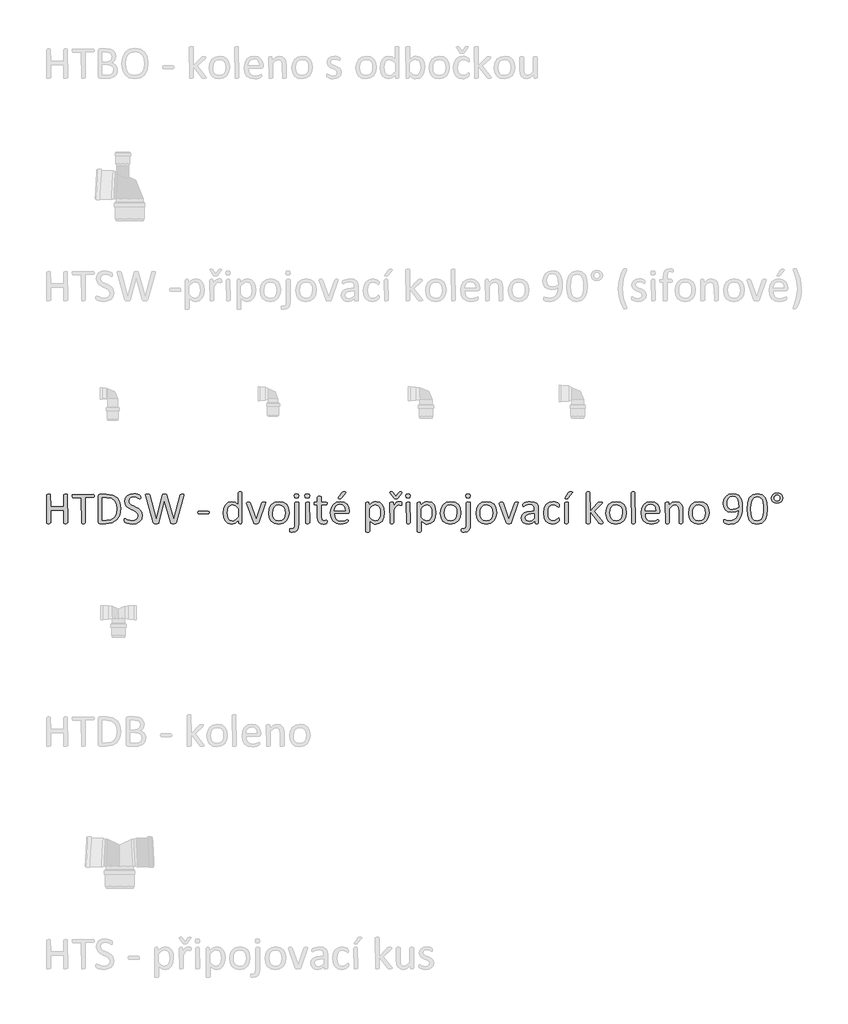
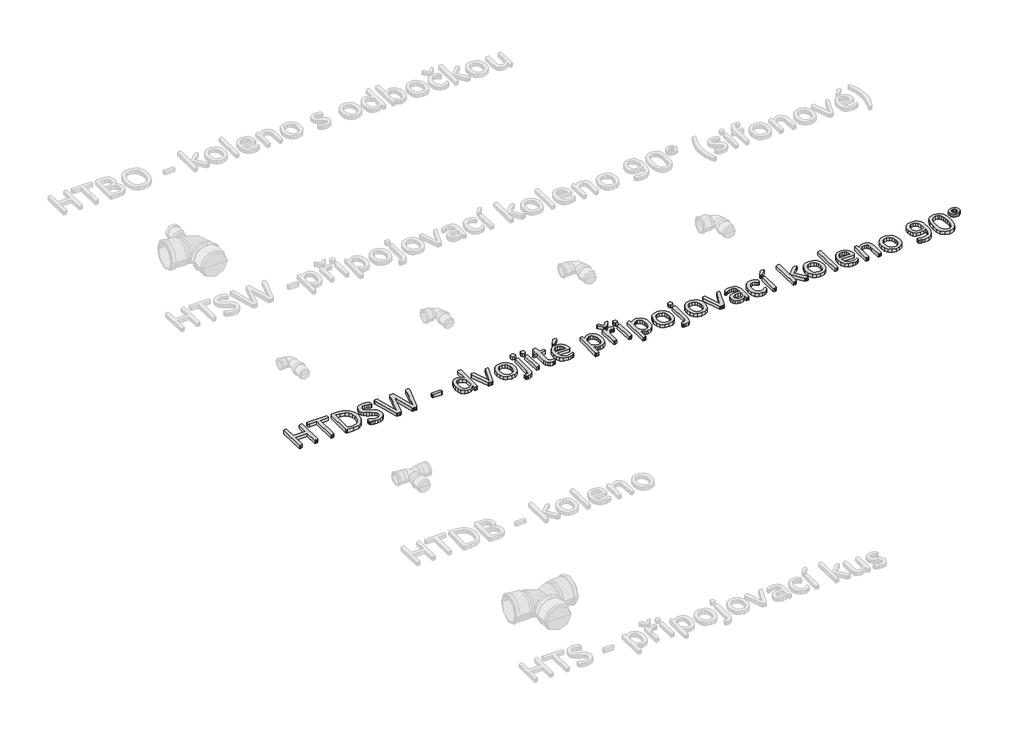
# One storey, part 6 of 26: 1 proxy.
"""IFC4 building model written with IfcOpenShell, lengths in millimetres."""

from ifc_helpers import new_model, si_unit, origin, origin_with_axes, place, context, project, spatial, polyline, outline, extrude, element, save

model = new_model("IFC4")

# Units and contexts
model_context = context("Model", 3, world=origin())
ifc_project = project(units=[si_unit("LENGTHUNIT", "METRE", prefix="MILLI")], contexts=[model_context])

# Site, building, storey
site = spatial("IfcSite", under=ifc_project)
building = spatial("IfcBuilding", under=site)
storey = spatial("IfcBuildingStorey", under=building, Name="Podlaží 1", Elevation=0.0)

# Proxy
placement = place(None, origin())
element("IfcBuildingElementProxy", 1, Name="120mm Arial", ObjectType="120mm Arial", at=placement, inside=storey, context=model_context, shape_type="SweptSolid", body=[
    extrude(outline(polyline([(-20465.0657483, -3041.9493003), (-20469.2817655, -3044.6815689), (-20473.1358927, -3044.9167974), (-20477.1166815, -3044.6815689), (-20479.5775327, -3044.1387341), (-20481.2784151, -2989.3305111), (-20534.5486061, -2989.3305111), (-20534.5486061, -3041.9854893), (-20538.7465288, -3044.6815689), (-20542.6549395, -3044.9167974), (-20546.5271613, -3044.6815689), (-20549.0603905, -3044.1206396), (-20550.7612729, -2927.4473409), (-20546.5271613, -2924.7150723), (-20542.6549395, -2924.4798438), (-20538.7465288, -2924.7150723), (-20536.2494886, -2925.2760016), (-20534.5486061, -2975.4339396), (-20481.2784151, -2975.4339396), (-20481.2784151, -2927.4473409), (-20477.1166815, -2924.7150723), (-20473.1358927, -2924.4798438), (-20469.2817655, -2924.7150723), (-20466.7666308, -2925.2760016), (-20465.0657483, -3041.9493003)])), origin_with_axes(), (0.0, 0.0, 1.0), 15.0),
    extrude(outline(polyline([(-20356.2092711, -2931.5366966), (-20356.390216, -2934.6670441), (-20356.9873343, -2936.8021944), (-20393.2667952, -2938.3764154), (-20393.2667952, -3041.9493003), (-20397.4647179, -3044.6815689), (-20401.3731287, -3044.9167974), (-20405.2453504, -3044.6815689), (-20407.7785796, -3044.1206396), (-20409.4794621, -2938.3764154), (-20443.3885442, -2938.3764154), (-20446.3017578, -2934.6670441), (-20446.5369862, -2931.5366966), (-20446.3017578, -2928.3339711), (-20445.686545, -2926.0902538), (-20359.3939021, -2924.4798438), (-20357.0054288, -2926.0902538), (-20356.390216, -2928.3339711), (-20356.2092711, -2931.5366966)])), origin_with_axes(), (0.0, 0.0, 1.0), 15.0),
    extrude(outline(polyline([(-20247.3527939, -2982.9250602), (-20251.3516771, -3010.2477464), (-20263.0407204, -3029.6088553), (-20281.8951833, -3041.0988591), (-20308.5121843, -3044.9167974), (-20334.0254212, -3044.9167974), (-20338.0966824, -3043.4692378), (-20339.9966043, -3038.4027794), (-20339.9966043, -2930.9938618), (-20338.0966824, -2925.9274034), (-20334.0254212, -2924.4798438), (-20306.7389239, -2924.4798438), (-20280.3028678, -2928.5330105), (-20262.1902791, -2940.1677703), (-20251.1164487, -2958.5517765), (-20247.3527939, -2982.9250602)]), holes=[polyline([(-20263.5654607, -2983.6488399), (-20266.0082174, -2965.6629127), (-20273.644094, -2951.2596953), (-20286.8168858, -2941.7781803), (-20307.3541367, -2938.3764154), (-20323.7839374, -2938.3764154), (-20323.7839374, -3031.0202258), (-20307.1731918, -3031.0202258), (-20287.5768545, -3028.1612957), (-20274.2593068, -3019.421655), (-20266.2434458, -3004.6565477), (-20263.5654607, -2983.6488399)])]), origin_with_axes(), (0.0, 0.0, 1.0), 15.0),
    extrude(outline(polyline([(-20159.341174, -3011.3696051), (-20162.453427, -3026.5689802), (-20171.1206897, -3037.8780391), (-20184.1668201, -3044.8806084), (-20200.3071089, -3047.2328926), (-20211.5256953, -3046.3281679), (-20220.7538874, -3044.1025451), (-20227.5574172, -3041.3702765), (-20231.3753555, -3038.9637088), (-20232.9495765, -3036.1771567), (-20233.4562223, -3031.4183047), (-20233.2752774, -3027.8898783), (-20232.714348, -3025.6280665), (-20226.7431649, -3025.5194996), (-20220.5729424, -3028.6679416), (-20211.5076008, -3031.8525725), (-20199.2576282, -3033.3363211), (-20189.6132628, -3031.9249505), (-20182.1040477, -3027.9441618), (-20177.2547233, -3021.6472778), (-20175.5538408, -3013.1428655), (-20177.942314, -3004.3127523), (-20184.2211035, -2997.8892069), (-20193.1055002, -2992.8227485), (-20203.3469839, -2988.11818), (-20213.5341842, -2982.8164932), (-20222.3823918, -2975.9767744), (-20228.7154648, -2966.7123934), (-20231.140127, -2954.0100584), (-20228.3716694, -2940.4210933), (-20220.6815094, -2930.4329324), (-20208.9562771, -2924.2808044), (-20194.2635478, -2922.1637486), (-20186.1391199, -2922.9418118), (-20178.4489599, -2925.0045842), (-20172.0073199, -2927.8816088), (-20168.2979486, -2930.4510269), (-20167.139901, -2931.95287), (-20166.3799322, -2935.2641624), (-20166.2894598, -2938.2316595), (-20166.4342157, -2941.3077235), (-20166.8503891, -2943.5514408), (-20172.0796979, -2943.9133306), (-20177.5080462, -2940.7467941), (-20185.1077338, -2937.5259742), (-20194.9511386, -2936.0603201), (-20203.7993463, -2937.3812182), (-20210.0238523, -2940.8915501), (-20213.6970346, -2946.1027644), (-20214.9274602, -2952.4901209), (-20212.575176, -2961.2116671), (-20206.2963865, -2967.689496), (-20197.3758008, -2972.8645214), (-20187.1886006, -2977.6052789), (-20176.9833058, -2982.8707767), (-20168.0627202, -2989.6381175), (-20161.7477417, -2998.8301206), (-20159.341174, -3011.3696051)])), origin_with_axes(), (0.0, 0.0, 1.0), 15.0),
    extrude(outline(polyline([(-20021.533506, -3040.8636307), (-20022.6734591, -3042.9444975), (-20024.7000425, -3044.1387341), (-20027.8846735, -3044.7358524), (-20032.5711475, -3044.9167974), (-20037.4566609, -3044.7358524), (-20040.7498589, -3044.1387341), (-20042.6859698, -3042.9444975), (-20043.7173559, -3040.8636307), (-20068.8325139, -2950.7530495), (-20092.2106004, -3040.8636307), (-20093.1334196, -3042.9444975), (-20094.979058, -3044.1387341), (-20098.0913111, -3044.7358524), (-20102.95873, -3044.9167974), (-20108.0613774, -3044.7358524), (-20111.3907643, -3044.1387341), (-20113.3992532, -3042.9444975), (-20114.3582614, -3040.8636307), (-20146.0960042, -2930.6681609), (-20146.6931225, -2927.3387739), (-20145.9512483, -2925.4931355), (-20143.3999246, -2924.6607888), (-20138.6772616, -2924.4798438), (-20134.117449, -2924.6245998), (-20131.5661254, -2925.1312456), (-20129.8471484, -2927.8092308), (-20102.886352, -3027.7632168), (-20077.1921702, -2927.9901757), (-20076.486485, -2926.2892933), (-20075.1474924, -2925.2217181), (-20072.5056962, -2924.6607888), (-20068.0001672, -2924.4798438), (-20063.8746225, -2924.6607888), (-20061.4318658, -2925.2217181), (-20060.0747787, -2926.2892933), (-20059.3871879, -2927.9901757), (-20031.8473677, -3027.7632168), (-20005.2122722, -2927.8816088), (-20004.6694374, -2926.2892933), (-20001.0143496, -2924.6607888), (-19996.7078599, -2924.4798438), (-19992.2928034, -2924.7150723), (-19989.9224246, -2925.583608), (-19989.2348338, -2927.4292464), (-19989.7233852, -2930.7405388), (-20021.533506, -3040.8636307)])), origin_with_axes(), (0.0, 0.0, 1.0), 15.0),
    extrude(outline(polyline([(-19886.0419333, -2999.7167508), (-19886.8923745, -3004.2765633), (-19889.3713202, -3005.5431779), (-19928.9620736, -3005.5431779), (-19931.5133973, -3004.2403744), (-19932.3638385, -2999.7167508), (-19931.5133973, -2995.2293162), (-19928.9620736, -2993.9627016), (-19889.3713202, -2993.9627016), (-19886.2771617, -2997.0025767), (-19886.0419333, -2999.7167508)])), origin_with_axes(), (0.0, 0.0, 1.0), 15.0),
    extrude(outline(polyline([(-19752.0341091, -3042.0216783), (-19755.4177795, -3044.7358524), (-19758.729072, -3044.9167974), (-19762.1670259, -3044.7358524), (-19764.4107432, -3044.2653956), (-19766.0754366, -3031.9611395), (-19779.5196458, -3043.1978204), (-19794.7733045, -3047.2328926), (-19810.1898135, -3043.6320883), (-19820.5217697, -3033.8972504), (-19826.3120079, -3019.457844), (-19828.1395518, -3001.9966571), (-19825.8596455, -2982.3641309), (-19819.1284937, -2967.4180786), (-19808.0908522, -2957.9184692), (-19792.8552881, -2954.5890822), (-19779.7005908, -2957.8279967), (-19767.921075, -2967.3276062), (-19767.921075, -2918.2191488), (-19766.2563816, -2916.0116206), (-19763.7593414, -2915.4506912), (-19759.9233086, -2915.2154628), (-19755.9063309, -2915.4506912), (-19753.4635742, -2916.0116206), (-19752.1426761, -2916.9344398), (-19752.0341091, -3042.0216783)]), holes=[polyline([(-19767.921075, -2983.8297849), (-19779.5377403, -2972.412159), (-19791.2267836, -2968.4856538), (-19800.8168655, -2971.2360169), (-19807.2223165, -2978.4919091), (-19810.8050263, -2988.6972038), (-19811.926885, -3000.2595856), (-19810.9859713, -3012.4914637), (-19807.7108678, -3023.0948373), (-19801.5225508, -3030.5316745), (-19791.8419964, -3033.3363211), (-19786.1603252, -3032.5220688), (-19780.551032, -3029.8259892), (-19774.5617544, -3024.9404757), (-19767.921075, -3017.5217331), (-19767.921075, -2983.8297849)])]), origin_with_axes(), (0.0, 0.0, 1.0), 15.0),
    extrude(outline(polyline([(-19655.4004627, -2958.497493), (-19683.8902439, -3041.6235994), (-19684.8673466, -3043.2701984), (-19686.676796, -3044.2653956), (-19689.7347655, -3044.7720414), (-19694.3850505, -3044.9167974), (-19698.9991466, -3044.7358524), (-19702.0209271, -3044.1930176), (-19703.8303765, -3043.1797259), (-19704.8436682, -3041.6235994), (-19733.2158351, -2963.3830064), (-19733.8129534, -2961.4830845), (-19730.2121491, -2956.99565), (-19726.6294392, -2956.9051775), (-19722.3229496, -2957.0499334), (-19719.8259094, -2957.5565793), (-19717.7269481, -2959.8364855), (-19694.1679166, -3027.7270279), (-19670.2469952, -2959.8364855), (-19668.2746954, -2957.5565793), (-19665.8500332, -2957.0499334), (-19661.8149609, -2956.9051775), (-19658.2865346, -2956.99565), (-19655.4004627, -2958.497493)])), origin_with_axes(), (0.0, 0.0, 1.0), 15.0),
    extrude(outline(polyline([(-19559.4725016, -3000.0062627), (-19562.1504868, -3018.9873871), (-19570.1663477, -3033.9334394), (-19583.5200845, -3043.7225607), (-19602.10313, -3047.2328926), (-19620.0166793, -3044.1387341), (-19632.7552032, -3035.1457705), (-19640.3548908, -3020.8149311), (-19642.851931, -3001.7071452), (-19640.2101348, -2982.7260207), (-19632.2485574, -2967.798063), (-19618.9491041, -2958.0632251), (-19600.3298696, -2954.5890822), (-19582.3982258, -2957.6832407), (-19569.6597019, -2966.6762044), (-19562.0238253, -2981.0070438), (-19559.4725016, -3000.0062627)]), holes=[polyline([(-19575.6851685, -3001.0919324), (-19576.9336886, -2988.5162589), (-19581.0411388, -2978.1300192), (-19588.7674878, -2971.0731665), (-19600.9450824, -2968.4856538), (-19612.5074642, -2970.8560325), (-19620.4690417, -2977.5509954), (-19625.1193267, -2987.7924791), (-19626.6392642, -3000.7300425), (-19625.3907441, -3013.3780939), (-19621.2471049, -3023.7281446), (-19613.4664724, -3030.7488084), (-19601.3069723, -3033.3363211), (-19589.7807795, -3030.9659423), (-19581.7649185, -3024.3252629), (-19577.1508225, -3014.1199682), (-19575.6851685, -3001.0919324)])]), origin_with_axes(), (0.0, 0.0, 1.0), 15.0),
    extrude(outline(polyline([(-19520.0988822, -3046.2919789), (-19521.5645363, -3061.672299), (-19526.1424433, -3071.5518929), (-19534.1402097, -3077.6135484), (-19545.93782, -3079.6582263), (-19551.2576013, -3079.2601474), (-19554.6231772, -3078.3735172), (-19556.2335872, -3077.2516585), (-19556.8668945, -3075.76791), (-19557.1021229, -3074.0308386), (-19557.1564064, -3071.8775938), (-19557.0116504, -3068.8196242), (-19556.5230991, -3066.7387574), (-19552.3432709, -3065.5264263), (-19548.3986712, -3065.7616547), (-19542.8798504, -3064.8388355), (-19539.1342901, -3061.817055), (-19536.9991398, -3056.3706122), (-19536.311549, -3046.2196009), (-19536.311549, -2959.7641076), (-19534.5925721, -2957.6470517), (-19532.1136264, -2957.0861224), (-19528.2052156, -2956.9051775), (-19524.2968049, -2957.0861224), (-19521.8178592, -2957.6470517), (-19520.4969611, -2958.569871), (-19520.0988822, -3046.2919789)])), origin_with_axes(), (0.0, 0.0, 1.0), 15.0),
    extrude(outline(polyline([(-19520.0988822, -2931.3195627), (-19522.1073711, -2938.7202108), (-19529.5080192, -2940.6925107), (-19536.7096279, -2938.7744943), (-19538.6276443, -2931.5366966), (-19536.6734389, -2924.1360485), (-19529.3270743, -2922.1637486), (-19522.0168986, -2924.081765), (-19520.0988822, -2931.3195627)])), origin_with_axes(), (0.0, 0.0, 1.0), 15.0),
    extrude(outline(polyline([(-19476.0930723, -3042.0940563), (-19480.218617, -3044.7358524), (-19484.2355947, -3044.9167974), (-19488.1801944, -3044.7358524), (-19490.6772346, -3044.1930176), (-19492.3057391, -2959.7279186), (-19488.1801944, -2957.0861224), (-19484.2355947, -2956.9051775), (-19480.218617, -2957.0861224), (-19477.7758602, -2957.6289573), (-19476.0930723, -3042.0940563)])), origin_with_axes(), (0.0, 0.0, 1.0), 15.0),
    extrude(outline(polyline([(-19476.0930723, -2931.3195627), (-19478.0834666, -2938.7202108), (-19485.4660203, -2940.6925107), (-19492.667629, -2938.7744943), (-19494.6218344, -2931.5366966), (-19492.63144, -2924.1360485), (-19485.2488864, -2922.1637486), (-19478.0472777, -2924.081765), (-19476.0930723, -2931.3195627)])), origin_with_axes(), (0.0, 0.0, 1.0), 15.0),
    extrude(outline(polyline([(-19404.2941192, -3036.59333), (-19404.6560091, -3041.1169536), (-19405.7597733, -3043.5778048), (-19407.9673015, -3045.0615533), (-19411.314783, -3046.2015065), (-19415.3136662, -3046.9433807), (-19419.5296834, -3047.2328926), (-19430.5492303, -3045.4777267), (-19438.0584454, -3040.1760399), (-19442.3287461, -3031.1830763), (-19443.6677386, -3018.3178909), (-19443.6677386, -2968.4856538), (-19454.6691911, -2968.4856538), (-19456.7862469, -2967.1285667), (-19457.5643102, -2962.7316046), (-19457.3471763, -2960.035525), (-19456.7862469, -2958.2079811), (-19443.6677386, -2956.9051775), (-19443.6677386, -2936.7479109), (-19442.0392342, -2934.5403826), (-19439.542194, -2933.9251698), (-19435.5975942, -2933.7442249), (-19431.5806165, -2933.9251698), (-19429.1378598, -2934.5403826), (-19427.8531507, -2935.5355798), (-19427.4550718, -2956.9051775), (-19407.1892383, -2956.9051775), (-19404.4750642, -2960.035525), (-19404.2941192, -2962.7316046), (-19405.090277, -2967.1285667), (-19407.1892383, -2968.4856538), (-19427.4550718, -2968.4856538), (-19427.4550718, -3015.6760947), (-19425.0485041, -3028.866981), (-19416.4174303, -3033.3363211), (-19412.816626, -3032.9201477), (-19410.0119794, -3032.051612), (-19407.8949236, -3031.1649818), (-19406.3207026, -3030.7307139), (-19404.4750642, -3033.662022), (-19404.2941192, -3036.59333)])), origin_with_axes(), (0.0, 0.0, 1.0), 15.0),
    extrude(outline(polyline([(-19313.9664041, -2996.6044978), (-19315.757759, -3001.7071452), (-19319.8652092, -3003.2270827), (-19374.1848808, -3003.2270827), (-19372.8277938, -3016.6170084), (-19368.3222647, -3026.8223031), (-19360.1073643, -3033.3725101), (-19347.7307303, -3035.6524163), (-19337.4530576, -3034.5848412), (-19329.6362361, -3032.1782734), (-19324.2259823, -3029.7717057), (-19321.0232568, -3028.7041305), (-19318.7252561, -3031.5992496), (-19318.5985946, -3034.2410458), (-19318.6890671, -3036.1771567), (-19323.1403126, -3041.5693159), (-19329.4914801, -3044.0663561), (-19338.5387272, -3046.2557899), (-19349.5039907, -3047.2328926), (-19367.1823116, -3044.3377735), (-19379.93893, -3035.7247943), (-19387.7557515, -3021.3758604), (-19390.3975477, -3001.3452553), (-19387.62909, -2981.8032015), (-19379.6494181, -2967.1104722), (-19367.0556501, -2957.8279967), (-19350.5172824, -2954.5890822), (-19333.8703477, -2957.7194297), (-19322.5612888, -2966.151464), (-19316.0472709, -2978.5823816), (-19313.9664041, -2993.8179457), (-19313.9664041, -2996.6044978)]), holes=[polyline([(-19330.1790709, -2991.6466064), (-19331.3506894, -2981.0206147), (-19335.3721907, -2972.9549939), (-19342.1440552, -2967.8659174), (-19351.5667631, -2966.1695585), (-19361.2111285, -2968.2685199), (-19368.1413198, -2973.8597186), (-19372.4659039, -2981.9841465), (-19374.1848808, -2991.6466064), (-19330.1790709, -2991.6466064)])]), origin_with_axes(), (0.0, 0.0, 1.0), 15.0),
    extrude(outline(polyline([(-19344.1118314, -2918.5086608), (-19342.7728389, -2916.9163453), (-19340.909106, -2915.9392426), (-19338.1768373, -2915.3964077), (-19334.2684266, -2915.2154628), (-19329.925748, -2915.5230692), (-19327.6096527, -2916.4096994), (-19327.8629756, -2919.3410075), (-19345.1613121, -2940.1496758), (-19346.5545882, -2941.5791409), (-19347.9840532, -2942.4295821), (-19350.0830145, -2942.8819445), (-19353.3038345, -2943.0086059), (-19356.6332214, -2942.7371885), (-19358.3702929, -2942.0134087), (-19357.972214, -2939.1725732), (-19344.1118314, -2918.5086608)])), origin_with_axes(), (0.0, 0.0, 1.0), 15.0),
    extrude(outline(polyline([(-19170.368498, -2999.6443728), (-19172.6845932, -3019.494033), (-19179.488123, -3034.4400852), (-19190.616237, -3043.9035057), (-19205.7975176, -3047.2328926), (-19212.510575, -3046.4910184), (-19218.5541361, -3044.1387341), (-19224.4167522, -3040.1036619), (-19230.5869747, -3034.3858017), (-19230.5869747, -3076.6545402), (-19232.2697627, -3078.916352), (-19234.7125194, -3079.4772813), (-19238.7294971, -3079.6582263), (-19242.6740969, -3079.4772813), (-19245.1711371, -3078.916352), (-19246.4558461, -3077.9754383), (-19246.4558461, -2959.8002966), (-19243.0721757, -2957.0499334), (-19239.7065998, -2956.9051775), (-19236.3229294, -2957.0318389), (-19234.1154011, -2957.5022958), (-19232.5411801, -2970.1503473), (-19225.3576659, -2963.3106284), (-19218.3912856, -2958.4793985), (-19211.1896769, -2955.5661849), (-19203.4090444, -2954.5890822), (-19188.2096693, -2958.1536976), (-19177.9681855, -2967.8885355), (-19172.1960419, -2982.2555639), (-19170.368498, -2999.6443728)]), holes=[polyline([(-19186.5811648, -3001.4176333), (-19187.5220785, -2989.1495662), (-19190.7609929, -2978.6185705), (-19196.9312155, -2971.2541114), (-19206.5574864, -2968.4856538), (-19212.2391576, -2969.336095), (-19217.9027343, -2972.0502691), (-19223.9282008, -2976.9357826), (-19230.5869747, -2984.3726197), (-19230.5869747, -3017.919812), (-19218.9884039, -3029.3736268), (-19207.4622111, -3033.3363211), (-19197.8721292, -3030.5678634), (-19191.3943002, -3023.2034043), (-19187.7573069, -3012.9076371), (-19186.5811648, -3001.4176333)])]), origin_with_axes(), (0.0, 0.0, 1.0), 15.0),
    extrude(outline(polyline([(-19098.5695449, -2963.8534633), (-19098.6600174, -2967.1466612), (-19099.0219073, -2969.2818115), (-19102.5684281, -2970.4941426), (-19104.9026179, -2969.6617959), (-19107.8158314, -2968.8656382), (-19111.3080688, -2968.4856538), (-19115.7231254, -2969.480851), (-19120.2648435, -2972.7378599), (-19125.2408294, -2978.745232), (-19130.9948785, -2987.9191406), (-19130.9948785, -3042.0940563), (-19135.1204232, -3044.7358524), (-19139.1374009, -3044.9167974), (-19143.0820007, -3044.7358524), (-19145.5790409, -3044.1930176), (-19147.2075454, -2959.7279186), (-19143.4800796, -2957.0499334), (-19139.8249917, -2956.9051775), (-19136.2422819, -2957.0499334), (-19134.0347536, -2957.5927683), (-19132.551005, -2971.7426627), (-19126.29031, -2963.1658725), (-19120.7353003, -2957.9365637), (-19115.560275, -2955.312862), (-19110.3671551, -2954.5890822), (-19107.725359, -2954.7157437), (-19104.613106, -2955.204295), (-19101.6817979, -2956.0185473), (-19099.8361595, -2956.9051775), (-19098.6057339, -2960.5964543), (-19098.5695449, -2963.8534633)])), origin_with_axes(), (0.0, 0.0, 1.0), 15.0),
    extrude(outline(polyline([(-19111.3080688, -2917.8934479), (-19110.1500212, -2916.6087389), (-19106.8568233, -2915.3421243), (-19103.9617042, -2915.2154628), (-19100.1799549, -2915.5230692), (-19098.3705055, -2916.4096994), (-19099.7275925, -2920.2095432), (-19114.6736448, -2940.6925107), (-19115.8497869, -2941.8505583), (-19117.4421024, -2942.5200546), (-19119.7581976, -2942.8819445), (-19123.1056791, -2943.0086059), (-19126.2541211, -2942.8819445), (-19128.4797438, -2942.4838656), (-19130.0177759, -2941.7600858), (-19146.0494977, -2920.2095432), (-19147.4427738, -2917.9839204), (-19145.5428519, -2915.5230692), (-19141.7791971, -2915.2154628), (-19138.6669441, -2915.3421243), (-19136.7851167, -2915.7944866), (-19134.4690214, -2917.8934479), (-19122.8885451, -2934.0699258), (-19111.3080688, -2917.8934479)])), origin_with_axes(), (0.0, 0.0, 1.0), 15.0),
    extrude(outline(polyline([(-19063.828116, -3042.0940563), (-19067.9536607, -3044.7358524), (-19071.9706384, -3044.9167974), (-19075.9152381, -3044.7358524), (-19078.4122783, -3044.1930176), (-19080.0407828, -2959.7279186), (-19075.9152381, -2957.0861224), (-19071.9706384, -2956.9051775), (-19067.9536607, -2957.0861224), (-19065.510904, -2957.6289573), (-19063.828116, -3042.0940563)])), origin_with_axes(), (0.0, 0.0, 1.0), 15.0),
    extrude(outline(polyline([(-19063.828116, -2931.3195627), (-19065.8185104, -2938.7202108), (-19073.201064, -2940.6925107), (-19080.4026727, -2938.7744943), (-19082.3568781, -2931.5366966), (-19080.3664837, -2924.1360485), (-19072.9839301, -2922.1637486), (-19065.7823214, -2924.081765), (-19063.828116, -2931.3195627)])), origin_with_axes(), (0.0, 0.0, 1.0), 15.0),
    extrude(outline(polyline([(-18959.6038293, -2999.6443728), (-18961.9199246, -3019.494033), (-18968.7234544, -3034.4400852), (-18979.8515683, -3043.9035057), (-18995.032849, -3047.2328926), (-19001.7459063, -3046.4910184), (-19007.7894674, -3044.1387341), (-19013.6520835, -3040.1036619), (-19019.8223061, -3034.3858017), (-19019.8223061, -3076.6545402), (-19021.505094, -3078.916352), (-19023.9478507, -3079.4772813), (-19027.9648285, -3079.6582263), (-19031.9094282, -3079.4772813), (-19034.4064684, -3078.916352), (-19035.6911775, -3077.9754383), (-19035.6911775, -2959.8002966), (-19032.3075071, -2957.0499334), (-19028.9419311, -2956.9051775), (-19025.5582607, -2957.0318389), (-19023.3507324, -2957.5022958), (-19021.7765114, -2970.1503473), (-19014.5929972, -2963.3106284), (-19007.626617, -2958.4793985), (-19000.4250083, -2955.5661849), (-18992.6443757, -2954.5890822), (-18977.4450006, -2958.1536976), (-18967.2035169, -2967.8885355), (-18961.4313732, -2982.2555639), (-18959.6038293, -2999.6443728)]), holes=[polyline([(-18975.8164961, -3001.4176333), (-18976.7574098, -2989.1495662), (-18979.9963243, -2978.6185705), (-18986.1665468, -2971.2541114), (-18995.7928177, -2968.4856538), (-19001.4744889, -2969.336095), (-19007.1380656, -2972.0502691), (-19013.1635322, -2976.9357826), (-19019.8223061, -2984.3726197), (-19019.8223061, -3017.919812), (-19008.2237353, -3029.3736268), (-18996.6975424, -3033.3363211), (-18987.1074605, -3030.5678634), (-18980.6296316, -3023.2034043), (-18976.9926382, -3012.9076371), (-18975.8164961, -3001.4176333)])]), origin_with_axes(), (0.0, 0.0, 1.0), 15.0),
    extrude(outline(polyline([(-18857.6956379, -3000.0062627), (-18860.373623, -3018.9873871), (-18868.3894839, -3033.9334394), (-18881.7432207, -3043.7225607), (-18900.3262662, -3047.2328926), (-18918.2398155, -3044.1387341), (-18930.9783394, -3035.1457705), (-18938.578027, -3020.8149311), (-18941.0750672, -3001.7071452), (-18938.4332711, -2982.7260207), (-18930.4716936, -2967.798063), (-18917.1722404, -2958.0632251), (-18898.5530058, -2954.5890822), (-18880.621362, -2957.6832407), (-18867.8828381, -2966.6762044), (-18860.2469615, -2981.0070438), (-18857.6956379, -3000.0062627)]), holes=[polyline([(-18873.9083047, -3001.0919324), (-18875.1568248, -2988.5162589), (-18879.264275, -2978.1300192), (-18886.990624, -2971.0731665), (-18899.1682186, -2968.4856538), (-18910.7306004, -2970.8560325), (-18918.6921779, -2977.5509954), (-18923.3424629, -2987.7924791), (-18924.8624004, -3000.7300425), (-18923.6138803, -3013.3780939), (-18919.4702411, -3023.7281446), (-18911.6896086, -3030.7488084), (-18899.5301085, -3033.3363211), (-18888.0039157, -3030.9659423), (-18879.9880547, -3024.3252629), (-18875.3739587, -3014.1199682), (-18873.9083047, -3001.0919324)])]), origin_with_axes(), (0.0, 0.0, 1.0), 15.0),
    extrude(outline(polyline([(-18818.3220184, -2931.3195627), (-18820.3305073, -2938.7202108), (-18827.7311554, -2940.6925107), (-18834.9327641, -2938.7744943), (-18836.8507805, -2931.5366966), (-18834.8965751, -2924.1360485), (-18827.5502105, -2922.1637486), (-18820.2400348, -2924.081765), (-18818.3220184, -2931.3195627)])), origin_with_axes(), (0.0, 0.0, 1.0), 15.0),
    extrude(outline(polyline([(-18818.3220184, -3046.2919789), (-18819.7876725, -3061.672299), (-18824.3655795, -3071.5518929), (-18832.363346, -3077.6135484), (-18844.1609562, -3079.6582263), (-18849.4807375, -3079.2601474), (-18852.8463134, -3078.3735172), (-18854.4567234, -3077.2516585), (-18855.0900307, -3075.76791), (-18855.3252591, -3074.0308386), (-18855.3795426, -3071.8775938), (-18855.2347866, -3068.8196242), (-18854.7462353, -3066.7387574), (-18850.5664071, -3065.5264263), (-18846.6218074, -3065.7616547), (-18841.1029867, -3064.8388355), (-18837.3574264, -3061.817055), (-18835.222276, -3056.3706122), (-18834.5346853, -3046.2196009), (-18834.5346853, -2959.7641076), (-18832.8157083, -2957.6470517), (-18830.3367626, -2957.0861224), (-18826.4283518, -2956.9051775), (-18822.5199411, -2957.0861224), (-18820.0409954, -2957.6470517), (-18818.7200973, -2958.569871), (-18818.3220184, -3046.2919789)])), origin_with_axes(), (0.0, 0.0, 1.0), 15.0),
    extrude(outline(polyline([(-18711.7816365, -3000.0062627), (-18714.4596216, -3018.9873871), (-18722.4754826, -3033.9334394), (-18735.8292193, -3043.7225607), (-18754.4122649, -3047.2328926), (-18772.3258141, -3044.1387341), (-18785.0643381, -3035.1457705), (-18792.6640256, -3020.8149311), (-18795.1610658, -3001.7071452), (-18792.5192697, -2982.7260207), (-18784.5576922, -2967.798063), (-18771.258239, -2958.0632251), (-18752.6390044, -2954.5890822), (-18734.7073607, -2957.6832407), (-18721.9688367, -2966.6762044), (-18714.3329602, -2981.0070438), (-18711.7816365, -3000.0062627)]), holes=[polyline([(-18727.9943033, -3001.0919324), (-18729.2428234, -2988.5162589), (-18733.3502736, -2978.1300192), (-18741.0766226, -2971.0731665), (-18753.2542172, -2968.4856538), (-18764.816599, -2970.8560325), (-18772.7781765, -2977.5509954), (-18777.4284615, -2987.7924791), (-18778.948399, -3000.7300425), (-18777.6998789, -3013.3780939), (-18773.5562397, -3023.7281446), (-18765.7756072, -3030.7488084), (-18753.6161071, -3033.3363211), (-18742.0899143, -3030.9659423), (-18734.0740534, -3024.3252629), (-18729.4599573, -3014.1199682), (-18727.9943033, -3001.0919324)])]), origin_with_axes(), (0.0, 0.0, 1.0), 15.0),
    extrude(outline(polyline([(-18622.4219768, -2958.497493), (-18650.9117579, -3041.6235994), (-18651.8888606, -3043.2701984), (-18653.69831, -3044.2653956), (-18656.7562796, -3044.7720414), (-18661.4065646, -3044.9167974), (-18666.0206606, -3044.7358524), (-18669.0424411, -3044.1930176), (-18670.8518906, -3043.1797259), (-18671.8651822, -3041.6235994), (-18700.2373492, -2963.3830064), (-18700.8344675, -2961.4830845), (-18697.2336631, -2956.99565), (-18693.6509533, -2956.9051775), (-18689.3444636, -2957.0499334), (-18686.8474234, -2957.5565793), (-18684.7484621, -2959.8364855), (-18661.1894306, -3027.7270279), (-18637.2685093, -2959.8364855), (-18635.2962094, -2957.5565793), (-18632.8715472, -2957.0499334), (-18628.836475, -2956.9051775), (-18625.3080486, -2956.99565), (-18622.4219768, -2958.497493)])), origin_with_axes(), (0.0, 0.0, 1.0), 15.0),
    extrude(outline(polyline([(-18540.3905872, -3042.1302453), (-18541.186745, -3043.8130332), (-18543.3580843, -3044.64538), (-18547.411251, -3044.9167974), (-18551.5187012, -3044.64538), (-18553.744324, -3043.8130332), (-18554.4319148, -3042.1302453), (-18554.4319148, -3033.8067779), (-18566.6276039, -3043.4330488), (-18580.8860653, -3047.2328926), (-18592.846526, -3045.5139157), (-18601.9480566, -3040.5379298), (-18607.7925782, -3032.5401633), (-18609.873445, -3021.7558448), (-18606.9964205, -3009.4877777), (-18598.7453311, -3000.8386094), (-18585.5906338, -2995.6816786), (-18568.0751634, -2993.9627016), (-18556.6032541, -2993.9627016), (-18556.6032541, -2987.0506049), (-18557.6165457, -2978.0033577), (-18560.8735547, -2971.4531508), (-18566.6818873, -2967.5085511), (-18575.457717, -2966.1695585), (-18585.5001613, -2967.6171181), (-18593.2807938, -2970.801749), (-18598.8719926, -2973.98638), (-18602.2013795, -2975.4339396), (-18605.0603096, -2971.9055132), (-18605.2412545, -2969.2456225), (-18604.9155536, -2965.4457788), (-18603.3232381, -2962.7858881), (-18598.9805595, -2960.071714), (-18591.8875178, -2957.3937288), (-18583.1116881, -2955.38524), (-18573.5035117, -2954.5890822), (-18558.1231916, -2956.6337601), (-18547.8636133, -2962.6049432), (-18542.1638477, -2972.3578755), (-18540.3905872, -2985.9649352), (-18540.3905872, -3042.1302453)]), holes=[polyline([(-18556.6032541, -3005.5431779), (-18569.4865339, -3005.5431779), (-18580.2346635, -3006.6107531), (-18587.8162566, -3009.7591951), (-18592.2494077, -3014.7532755), (-18593.6607782, -3021.4663329), (-18589.6076115, -3031.8163836), (-18578.2442691, -3035.6524163), (-18567.2428167, -3032.5944468), (-18556.6032541, -3023.2395933), (-18556.6032541, -3005.5431779)])]), origin_with_axes(), (0.0, 0.0, 1.0), 15.0),
    extrude(outline(polyline([(-18454.6950626, -3028.2698627), (-18454.7855351, -3030.8030919), (-18455.111236, -3032.6125413), (-18457.1016303, -3036.2495346), (-18460.9919466, -3039.777961), (-18467.1621691, -3043.5235213), (-18474.5990063, -3046.2015065), (-18482.9224736, -3047.2328926), (-18498.6284946, -3044.2292066), (-18510.0823094, -3035.4533769), (-18517.1210677, -3021.3034824), (-18519.5457299, -3001.9604681), (-18516.5782328, -2980.5184924), (-18508.4538049, -2965.8438576), (-18496.3123993, -2957.3575398), (-18481.1854022, -2954.5890822), (-18473.5495256, -2955.4033345), (-18466.7459958, -2957.5384848), (-18461.2090805, -2960.5783598), (-18457.6987487, -2963.5277624), (-18456.1969056, -2965.4638733), (-18455.5093149, -2967.0019053), (-18455.147425, -2968.9018272), (-18455.0569525, -2971.5617178), (-18455.8712047, -2976.3748533), (-18457.8435046, -2977.7500348), (-18460.9738521, -2976.3024753), (-18465.4431922, -2973.1178443), (-18472.0114936, -2969.9332133), (-18481.0768352, -2968.4856538), (-18490.5990628, -2970.5846151), (-18497.5971084, -2976.8814991), (-18501.8990744, -2987.1772663), (-18503.3330631, -3001.2728773), (-18501.8493146, -3015.2780158), (-18497.470447, -3025.3385546), (-18490.3593107, -3031.3640212), (-18480.7149453, -3033.3363211), (-18471.6857927, -3031.5087771), (-18464.9546408, -3027.4917994), (-18460.1595999, -3023.5291052), (-18457.1197248, -3021.7558448), (-18454.8217241, -3025.3204601), (-18454.6950626, -3028.2698627)])), origin_with_axes(), (0.0, 0.0, 1.0), 15.0),
    extrude(outline(polyline([(-18417.6375385, -3042.0940563), (-18421.7630831, -3044.7358524), (-18425.7800609, -3044.9167974), (-18429.7246606, -3044.7358524), (-18432.2217008, -3044.1930176), (-18433.8502053, -2959.7279186), (-18429.7246606, -2957.0499334), (-18425.7800609, -2956.9051775), (-18421.7630831, -2957.0499334), (-18419.3203264, -2957.5927683), (-18417.6375385, -3042.0940563)])), origin_with_axes(), (0.0, 0.0, 1.0), 15.0),
    extrude(outline(polyline([(-18417.6737274, -2918.5086608), (-18416.3347349, -2916.9163453), (-18414.471002, -2915.9392426), (-18411.7387333, -2915.3964077), (-18407.8303226, -2915.2154628), (-18403.487644, -2915.5230692), (-18401.1715487, -2916.4096994), (-18401.4248716, -2919.3410075), (-18418.7232081, -2940.1496758), (-18420.1164842, -2941.5791409), (-18421.5459492, -2942.4295821), (-18423.6449105, -2942.8819445), (-18426.8657305, -2943.0086059), (-18430.1951174, -2942.7371885), (-18431.9321889, -2942.0134087), (-18431.53411, -2939.1725732), (-18417.6737274, -2918.5086608)])), origin_with_axes(), (0.0, 0.0, 1.0), 15.0),
    extrude(outline(polyline([(-18276.3557276, -3041.9854893), (-18280.4269888, -3044.7358524), (-18284.425872, -3044.9167974), (-18288.5514167, -3044.7720414), (-18291.3017798, -3044.3196791), (-18293.1112292, -3043.4149543), (-18294.3778438, -3041.9854893), (-18329.6259186, -2996.4235529), (-18329.6259186, -3042.0940563), (-18333.7514633, -3044.7358524), (-18337.768441, -3044.9167974), (-18341.7130407, -3044.7358524), (-18344.2100809, -3044.1749231), (-18345.8385854, -2918.1829599), (-18341.7130407, -2915.3964077), (-18337.768441, -2915.2154628), (-18333.7514633, -2915.3964077), (-18331.3087065, -2915.9573371), (-18330.0239974, -2916.8982508), (-18329.6259186, -2994.3245915), (-18297.4177189, -2960.0898085), (-18295.8073089, -2958.5879654), (-18293.7807255, -2957.5927683), (-18290.9941734, -2957.0499334), (-18287.1038572, -2956.9051775), (-18283.1230684, -2957.0499334), (-18280.5355558, -2957.5022958), (-18279.1060907, -2958.316548), (-18279.3051302, -2961.8449744), (-18281.422186, -2964.3962981), (-18313.4132518, -2994.2160246), (-18278.6356339, -3037.6789997), (-18276.8804679, -3040.1941344), (-18276.3557276, -3041.9854893)])), origin_with_axes(), (0.0, 0.0, 1.0), 15.0),
    extrude(outline(polyline([(-18181.3958219, -3000.0062627), (-18184.0738071, -3018.9873871), (-18192.089668, -3033.9334394), (-18205.4434048, -3043.7225607), (-18224.0264503, -3047.2328926), (-18241.9399996, -3044.1387341), (-18254.6785235, -3035.1457705), (-18262.2782111, -3020.8149311), (-18264.7752513, -3001.7071452), (-18262.1334551, -2982.7260207), (-18254.1718777, -2967.798063), (-18240.8724244, -2958.0632251), (-18222.2531899, -2954.5890822), (-18204.3215461, -2957.6832407), (-18191.5830222, -2966.6762044), (-18183.9471456, -2981.0070438), (-18181.3958219, -3000.0062627)]), holes=[polyline([(-18197.6084888, -3001.0919324), (-18198.8570089, -2988.5162589), (-18202.964459, -2978.1300192), (-18210.6908081, -2971.0731665), (-18222.8684027, -2968.4856538), (-18234.4307845, -2970.8560325), (-18242.3923619, -2977.5509954), (-18247.042647, -2987.7924791), (-18248.5625845, -3000.7300425), (-18247.3140644, -3013.3780939), (-18243.1704252, -3023.7281446), (-18235.3897927, -3030.7488084), (-18223.2302926, -3033.3363211), (-18211.7040998, -3030.9659423), (-18203.6882388, -3024.3252629), (-18199.0741428, -3014.1199682), (-18197.6084888, -3001.0919324)])]), origin_with_axes(), (0.0, 0.0, 1.0), 15.0),
    extrude(outline(polyline([(-18144.3382978, -3042.0578673), (-18148.4638425, -3044.7358524), (-18152.4808202, -3044.9167974), (-18156.4254199, -3044.7358524), (-18158.9224601, -3044.1749231), (-18160.5509646, -2918.1829599), (-18156.4254199, -2915.3964077), (-18152.4808202, -2915.2154628), (-18148.4638425, -2915.3964077), (-18146.0210857, -2915.9573371), (-18144.3382978, -3042.0578673)])), origin_with_axes(), (0.0, 0.0, 1.0), 15.0),
    extrude(outline(polyline([(-18044.7462016, -2996.6044978), (-18046.5375565, -3001.7071452), (-18050.6450067, -3003.2270827), (-18104.9646784, -3003.2270827), (-18103.6075913, -3016.6170084), (-18099.1020622, -3026.8223031), (-18090.8871619, -3033.3725101), (-18078.5105278, -3035.6524163), (-18068.2328551, -3034.5848412), (-18060.4160336, -3032.1782734), (-18055.0057798, -3029.7717057), (-18051.8030543, -3028.7041305), (-18049.5050536, -3031.5992496), (-18049.3783921, -3034.2410458), (-18049.4688646, -3036.1771567), (-18053.9201102, -3041.5693159), (-18060.2712776, -3044.0663561), (-18069.3185247, -3046.2557899), (-18080.2837882, -3047.2328926), (-18097.9621091, -3044.3377735), (-18110.7187275, -3035.7247943), (-18118.535549, -3021.3758604), (-18121.1773452, -3001.3452553), (-18118.4088876, -2981.8032015), (-18110.4292156, -2967.1104722), (-18097.8354476, -2957.8279967), (-18081.2970799, -2954.5890822), (-18064.6501452, -2957.7194297), (-18053.3410863, -2966.151464), (-18046.8270684, -2978.5823816), (-18044.7462016, -2993.8179457), (-18044.7462016, -2996.6044978)]), holes=[polyline([(-18060.9588684, -2991.6466064), (-18062.1304869, -2981.0206147), (-18066.1519883, -2972.9549939), (-18072.9238527, -2967.8659174), (-18082.3465606, -2966.1695585), (-18091.990926, -2968.2685199), (-18098.9211173, -2973.8597186), (-18103.2457014, -2981.9841465), (-18104.9646784, -2991.6466064), (-18060.9588684, -2991.6466064)])]), origin_with_axes(), (0.0, 0.0, 1.0), 15.0),
    extrude(outline(polyline([(-17949.7862959, -3042.0578673), (-17953.9118406, -3044.7358524), (-17957.8564404, -3044.9167974), (-17961.8734181, -3044.7358524), (-17964.3161748, -3044.1930176), (-17965.9989628, -2993.7093787), (-17967.0665379, -2982.3460364), (-17970.1606964, -2974.9091992), (-17975.4261942, -2970.1322528), (-17982.8992204, -2968.4856538), (-17993.8825783, -2972.520726), (-18005.3725822, -2984.3726197), (-18005.3725822, -3042.0578673), (-18009.4981269, -3044.7358524), (-18013.5151046, -3044.9167974), (-18017.4597043, -3044.7358524), (-18019.9567445, -3044.1930176), (-18021.585249, -2959.7279186), (-18017.8577832, -2957.0499334), (-18014.2026954, -2956.9051775), (-18010.6199855, -2957.0499334), (-18008.4124572, -2957.5927683), (-18006.9287087, -2970.6208041), (-17993.0864206, -2958.4432095), (-17979.1717545, -2954.5890822), (-17965.347561, -2957.4118233), (-17956.2641249, -2964.9572274), (-17951.288139, -2976.0129634), (-17949.7862959, -2991.2485275), (-17949.7862959, -3042.0578673)])), origin_with_axes(), (0.0, 0.0, 1.0), 15.0),
    extrude(outline(polyline([(-17843.245914, -3000.0062627), (-17845.9238991, -3018.9873871), (-17853.9397601, -3033.9334394), (-17867.2934968, -3043.7225607), (-17885.8765424, -3047.2328926), (-17903.7900916, -3044.1387341), (-17916.5286156, -3035.1457705), (-17924.1283031, -3020.8149311), (-17926.6253433, -3001.7071452), (-17923.9835472, -2982.7260207), (-17916.0219697, -2967.798063), (-17902.7225165, -2958.0632251), (-17884.1032819, -2954.5890822), (-17866.1716381, -2957.6832407), (-17853.4331142, -2966.6762044), (-17845.7972377, -2981.0070438), (-17843.245914, -3000.0062627)]), holes=[polyline([(-17859.4585808, -3001.0919324), (-17860.7071009, -2988.5162589), (-17864.8145511, -2978.1300192), (-17872.5409001, -2971.0731665), (-17884.7184947, -2968.4856538), (-17896.2808765, -2970.8560325), (-17904.242454, -2977.5509954), (-17908.892739, -2987.7924791), (-17910.4126765, -3000.7300425), (-17909.1641564, -3013.3780939), (-17905.0205172, -3023.7281446), (-17897.2398847, -3030.7488084), (-17885.0803846, -3033.3363211), (-17873.5541918, -3030.9659423), (-17865.5383309, -3024.3252629), (-17860.9242348, -3014.1199682), (-17859.4585808, -3001.0919324)])]), origin_with_axes(), (0.0, 0.0, 1.0), 15.0),
    extrude(outline(polyline([(-17706.5962936, -2979.9213741), (-17707.5372073, -2995.880718), (-17710.7218383, -3011.4057941), (-17716.7653994, -3025.3928381), (-17726.3373868, -3036.810464), (-17740.034919, -3044.464435), (-17758.4551141, -3047.2328926), (-17766.2719356, -3046.6900578), (-17773.1297489, -3045.3329707), (-17778.2504907, -3043.6320883), (-17781.2541768, -3041.8407333), (-17782.6112638, -3039.3798821), (-17783.0274372, -3035.2181485), (-17782.8826813, -3031.870667), (-17782.4665079, -3030.0069341), (-17777.490522, -3029.5907608), (-17772.73167, -3031.1287928), (-17766.0005182, -3032.6487303), (-17757.3332554, -3033.3363211), (-17741.6634234, -3029.9164617), (-17730.9876718, -3020.7244586), (-17724.7812603, -3007.3707219), (-17722.5194485, -2991.2485275), (-17734.2446808, -2996.3692694), (-17749.9507018, -2998.5948922), (-17766.7242979, -2995.8264345), (-17777.6171834, -2988.262936), (-17783.5340831, -2976.8814991), (-17785.3435325, -2962.4782817), (-17783.0274372, -2947.1160561), (-17775.8258285, -2934.2870597), (-17763.358722, -2925.4569465), (-17745.2461333, -2922.1637486), (-17731.9647745, -2924.081765), (-17721.9223302, -2929.6186802), (-17714.7207215, -2938.3583209), (-17709.9618696, -2949.9568917), (-17707.3743569, -2963.9982192), (-17706.5962936, -2979.9213741)]), holes=[polyline([(-17722.8089605, -2978.9442714), (-17724.3831815, -2957.7194297), (-17728.979183, -2943.7866692), (-17736.4341146, -2936.1146036), (-17746.6575038, -2933.7442249), (-17756.8808931, -2936.0603201), (-17763.8472733, -2942.2667317), (-17767.8461566, -2951.0787503), (-17769.1308657, -2961.2116671), (-17767.972818, -2971.8512297), (-17764.2453522, -2980.0118466), (-17757.5322949, -2985.1868719), (-17747.3089056, -2987.0144159), (-17733.9551689, -2984.8068876), (-17722.8089605, -2978.9442714)])]), origin_with_axes(), (0.0, 0.0, 1.0), 15.0),
    extrude(outline(polyline([(-17604.6881022, -2984.4088087), (-17606.877536, -3009.9582345), (-17614.1515227, -3029.8078947), (-17627.4328814, -3042.6730801), (-17647.6444315, -3047.2328926), (-17666.7884064, -3043.1435369), (-17679.3097964, -3031.1287928), (-17686.0590427, -3011.6048335), (-17688.0675316, -2984.9878325), (-17685.8238143, -2959.4926902), (-17678.5498276, -2939.5887465), (-17665.3227523, -2926.7235611), (-17645.2197692, -2922.1637486), (-17625.9672274, -2926.2531043), (-17613.4458374, -2938.2678484), (-17606.6965911, -2957.7918077), (-17604.6881022, -2984.4088087)]), holes=[polyline([(-17620.900769, -2985.5306673), (-17621.5521708, -2969.408473), (-17623.4701872, -2956.7966105), (-17626.7633851, -2947.405568), (-17631.5946151, -2940.9277391), (-17638.0181605, -2937.2183678), (-17646.1606829, -2936.0603201), (-17659.0982463, -2939.7696915), (-17666.9331623, -2949.9568917), (-17670.8234786, -2965.1381724), (-17671.8548647, -2983.8659739), (-17670.4434942, -3006.7012256), (-17665.9922486, -3022.0453567), (-17658.2116161, -3030.6583359), (-17646.7035178, -3033.3363211), (-17637.4572312, -3031.6716276), (-17630.5994179, -3026.8946811), (-17625.8767549, -3019.4397495), (-17622.8730689, -3009.8134786), (-17621.3169424, -2998.3596637), (-17620.900769, -2985.5306673)])]), origin_with_axes(), (0.0, 0.0, 1.0), 15.0),
    extrude(outline(polyline([(-17542.1535302, -2940.3306208), (-17543.9086961, -2948.5998046), (-17548.848493, -2955.38524), (-17556.3396136, -2959.926958), (-17565.6763727, -2961.537368), (-17574.8683757, -2960.0536195), (-17582.0337954, -2955.8737913), (-17586.7745529, -2949.4140569), (-17588.4754354, -2941.0544005), (-17586.665986, -2932.5499883), (-17581.69, -2925.8550254), (-17574.2531629, -2921.4580633), (-17564.9525929, -2919.8476533), (-17555.8148733, -2921.3675908), (-17548.5951701, -2925.547419), (-17543.8544126, -2931.9709645), (-17542.1535302, -2940.3306208)]), holes=[polyline([(-17553.7340065, -2940.6563217), (-17554.6025422, -2936.0603201), (-17557.0272044, -2932.3871378), (-17560.7365757, -2929.9805701), (-17565.4230497, -2929.1120344), (-17569.9466733, -2929.9805701), (-17573.6017611, -2932.3871378), (-17576.0264234, -2936.0060367), (-17576.8949591, -2940.4753767), (-17576.0264234, -2945.2885122), (-17573.5474776, -2948.9978835), (-17569.7476339, -2951.4044512), (-17565.0249709, -2952.272987), (-17560.5918198, -2951.3682623), (-17556.9910154, -2948.8712221), (-17554.6025422, -2945.1980397), (-17553.7340065, -2940.6563217)])]), origin_with_axes(), (0.0, 0.0, 1.0), 15.0),
])

save(model, "model.ifc")
